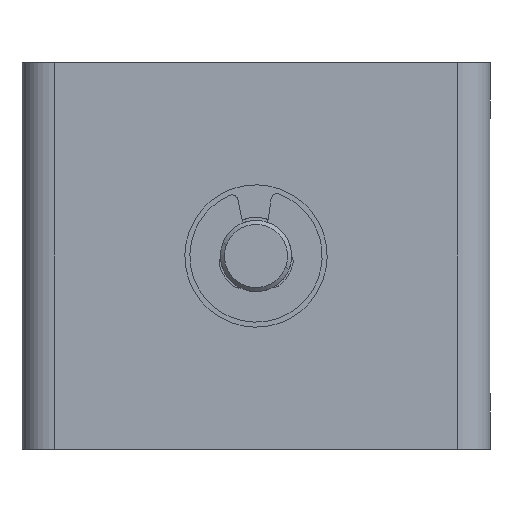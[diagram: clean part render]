
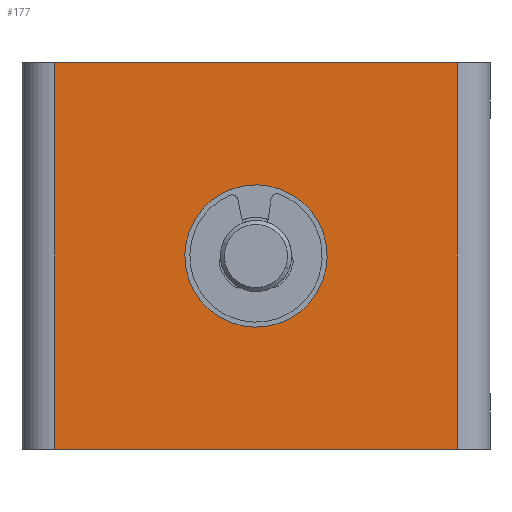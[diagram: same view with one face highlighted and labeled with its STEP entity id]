
A CAD part, front view. The second image highlights one B-rep face of the part: STEP entity #177.
In plain terms, the highlighted planar face has unit normal (0, -1, 0).
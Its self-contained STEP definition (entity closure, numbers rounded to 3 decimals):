
#144 = DIRECTION ( 'NONE',  ( 0., 0., 1. ) ) ;
#177 = ADVANCED_FACE ( 'NONE', ( #1645, #6766 ), #8118, .F. ) ;
#251 = ORIENTED_EDGE ( 'NONE', *, *, #5962, .T. ) ;
#874 = VERTEX_POINT ( 'NONE', #1445 ) ;
#1033 = CARTESIAN_POINT ( 'NONE',  ( 0., -43.1, -6.5 ) ) ;
#1128 = VERTEX_POINT ( 'NONE', #5598 ) ;
#1287 = LINE ( 'NONE', #2495, #8182 ) ;
#1294 = VECTOR ( 'NONE', #6886, 1000. ) ;
#1445 = CARTESIAN_POINT ( 'NONE',  ( 0., -43.1, -12.5 ) ) ;
#1511 = EDGE_CURVE ( 'NONE', #8216, #1128, #3697, .T. ) ;
#1645 = FACE_BOUND ( 'NONE', #8382, .T. ) ;
#2143 = AXIS2_PLACEMENT_3D ( 'NONE', #6516, #2537, #7189 ) ;
#2495 = CARTESIAN_POINT ( 'NONE',  ( 0., -43.1, 0. ) ) ;
#2509 = VERTEX_POINT ( 'NONE', #8222 ) ;
#2537 = DIRECTION ( 'NONE',  ( 0., -1., 0. ) ) ;
#2617 = LINE ( 'NONE', #2843, #3032 ) ;
#2747 = EDGE_CURVE ( 'NONE', #3855, #874, #4721, .T. ) ;
#2808 = CARTESIAN_POINT ( 'NONE',  ( -9.9, -43.1, -19. ) ) ;
#2843 = CARTESIAN_POINT ( 'NONE',  ( -9.9, -43.1, -9.5 ) ) ;
#3032 = VECTOR ( 'NONE', #3473, 1000. ) ;
#3065 = LINE ( 'NONE', #8247, #1294 ) ;
#3135 = ORIENTED_EDGE ( 'NONE', *, *, #1511, .T. ) ;
#3148 = EDGE_CURVE ( 'NONE', #1128, #2509, #3065, .T. ) ;
#3183 = EDGE_LOOP ( 'NONE', ( #3135, #5068, #251, #5939 ) ) ;
#3473 = DIRECTION ( 'NONE',  ( 0., 0., -1. ) ) ;
#3697 = LINE ( 'NONE', #6062, #7030 ) ;
#3735 = DIRECTION ( 'NONE',  ( 0., -1., 0. ) ) ;
#3855 = VERTEX_POINT ( 'NONE', #1033 ) ;
#3956 = VERTEX_POINT ( 'NONE', #6437 ) ;
#4142 = DIRECTION ( 'NONE',  ( 0., 1., 0. ) ) ;
#4221 = AXIS2_PLACEMENT_3D ( 'NONE', #2808, #4142, #144 ) ;
#4721 = CIRCLE ( 'NONE', #5506, 3. ) ;
#4918 = CARTESIAN_POINT ( 'NONE',  ( -9.9, -43.1, -19. ) ) ;
#5068 = ORIENTED_EDGE ( 'NONE', *, *, #3148, .T. ) ;
#5506 = AXIS2_PLACEMENT_3D ( 'NONE', #7743, #3735, #8408 ) ;
#5579 = ORIENTED_EDGE ( 'NONE', *, *, #6773, .F. ) ;
#5598 = CARTESIAN_POINT ( 'NONE',  ( 9.9, -43.1, -19. ) ) ;
#5939 = ORIENTED_EDGE ( 'NONE', *, *, #8066, .T. ) ;
#5962 = EDGE_CURVE ( 'NONE', #2509, #3956, #1287, .T. ) ;
#6062 = CARTESIAN_POINT ( 'NONE',  ( 0., -43.1, -19. ) ) ;
#6072 = ORIENTED_EDGE ( 'NONE', *, *, #2747, .F. ) ;
#6172 = CIRCLE ( 'NONE', #2143, 3. ) ;
#6437 = CARTESIAN_POINT ( 'NONE',  ( -9.9, -43.1, 0. ) ) ;
#6516 = CARTESIAN_POINT ( 'NONE',  ( 0., -43.1, -9.5 ) ) ;
#6736 = DIRECTION ( 'NONE',  ( 1., 0., 0. ) ) ;
#6766 = FACE_OUTER_BOUND ( 'NONE', #3183, .T. ) ;
#6773 = EDGE_CURVE ( 'NONE', #874, #3855, #6172, .T. ) ;
#6886 = DIRECTION ( 'NONE',  ( 0., 0., 1. ) ) ;
#7030 = VECTOR ( 'NONE', #6736, 1000. ) ;
#7189 = DIRECTION ( 'NONE',  ( 0., 0., -1. ) ) ;
#7743 = CARTESIAN_POINT ( 'NONE',  ( 0., -43.1, -9.5 ) ) ;
#8066 = EDGE_CURVE ( 'NONE', #3956, #8216, #2617, .T. ) ;
#8118 = PLANE ( 'NONE',  #4221 ) ;
#8182 = VECTOR ( 'NONE', #8499, 1000. ) ;
#8216 = VERTEX_POINT ( 'NONE', #4918 ) ;
#8222 = CARTESIAN_POINT ( 'NONE',  ( 9.9, -43.1, 0. ) ) ;
#8247 = CARTESIAN_POINT ( 'NONE',  ( 9.9, -43.1, -9.5 ) ) ;
#8382 = EDGE_LOOP ( 'NONE', ( #5579, #6072 ) ) ;
#8408 = DIRECTION ( 'NONE',  ( 0., 0., -1. ) ) ;
#8499 = DIRECTION ( 'NONE',  ( -1., 0., 0. ) ) ;
